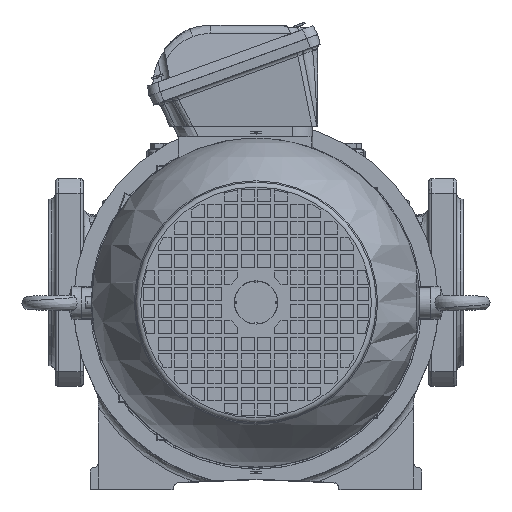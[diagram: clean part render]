
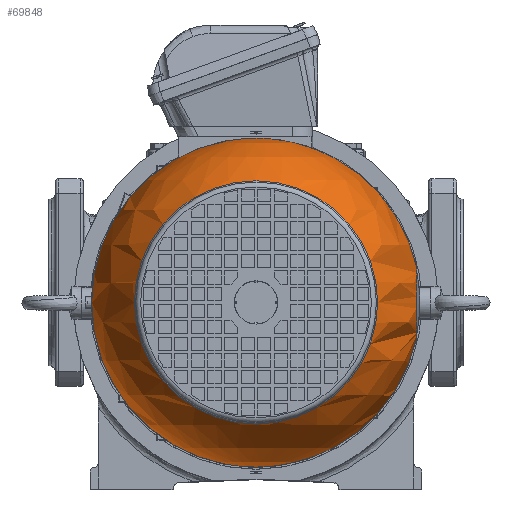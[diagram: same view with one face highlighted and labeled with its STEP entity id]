
A CAD part, top view. The second image highlights one B-rep face of the part: STEP entity #69848.
In plain terms, the highlighted spherical face has radius 99.054 mm.
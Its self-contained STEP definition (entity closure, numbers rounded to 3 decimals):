
#19=SPHERICAL_SURFACE('',#74411,99.054);
#7722=FACE_BOUND('',#15802,.T.);
#11652=FACE_OUTER_BOUND('',#15801,.T.);
#15801=EDGE_LOOP('',(#55772,#55773,#55774,#55775));
#15802=EDGE_LOOP('',(#55776,#55777));
#29168=CIRCLE('',#73081,99.05);
#29170=CIRCLE('',#73083,99.05);
#29171=CIRCLE('',#73084,99.05);
#29325=CIRCLE('',#73807,21.153);
#29346=CIRCLE('',#74409,73.309);
#29347=CIRCLE('',#74410,73.309);
#32161=VERTEX_POINT('',#110435);
#32162=VERTEX_POINT('',#110436);
#32165=VERTEX_POINT('',#110445);
#32166=VERTEX_POINT('',#110450);
#33979=VERTEX_POINT('',#117470);
#33980=VERTEX_POINT('',#117472);
#39003=EDGE_CURVE('',#32161,#32162,#29168,.T.);
#39007=EDGE_CURVE('',#32166,#32165,#29170,.T.);
#39008=EDGE_CURVE('',#32162,#32166,#29171,.T.);
#40657=EDGE_CURVE('',#32165,#32161,#29325,.T.);
#41816=EDGE_CURVE('',#33979,#33980,#29346,.T.);
#41817=EDGE_CURVE('',#33980,#33979,#29347,.T.);
#55772=ORIENTED_EDGE('',*,*,#39003,.T.);
#55773=ORIENTED_EDGE('',*,*,#39008,.T.);
#55774=ORIENTED_EDGE('',*,*,#39007,.T.);
#55775=ORIENTED_EDGE('',*,*,#40657,.T.);
#55776=ORIENTED_EDGE('',*,*,#41817,.F.);
#55777=ORIENTED_EDGE('',*,*,#41816,.F.);
#69848=ADVANCED_FACE('',(#11652,#7722),#19,.T.);
#73081=AXIS2_PLACEMENT_3D('',#110437,#80315,#80316);
#73083=AXIS2_PLACEMENT_3D('',#110451,#80319,#80320);
#73084=AXIS2_PLACEMENT_3D('',#110452,#80321,#80322);
#73807=AXIS2_PLACEMENT_3D('',#115105,#82865,#82866);
#74409=AXIS2_PLACEMENT_3D('',#117473,#85203,#85204);
#74410=AXIS2_PLACEMENT_3D('',#117474,#85205,#85206);
#74411=AXIS2_PLACEMENT_3D('',#117475,#85207,#85208);
#80315=DIRECTION('center_axis',(0.,0.,
1.));
#80316=DIRECTION('ref_axis',(0.,1.,0.));
#80319=DIRECTION('center_axis',(0.,0.,
1.));
#80320=DIRECTION('ref_axis',(0.,1.,0.));
#80321=DIRECTION('center_axis',(0.,0.,
1.));
#80322=DIRECTION('ref_axis',(0.,1.,0.));
#82865=DIRECTION('center_axis',(-1.,0.,0.));
#82866=DIRECTION('ref_axis',(0.,1.,0.));
#85203=DIRECTION('center_axis',(0.,0.,
1.));
#85204=DIRECTION('ref_axis',(0.,1.,0.));
#85205=DIRECTION('center_axis',(0.,0.,
1.));
#85206=DIRECTION('ref_axis',(0.,1.,0.));
#85207=DIRECTION('center_axis',(0.,-1.,0.));
#85208=DIRECTION('ref_axis',(-1.,0.,0.));
#110435=CARTESIAN_POINT('',(96.769,21.135,313.764));
#110436=CARTESIAN_POINT('',(0.,99.05,313.764));
#110437=CARTESIAN_POINT('Origin',(0.,0.,
313.764));
#110445=CARTESIAN_POINT('',(96.769,-21.135,313.764));
#110450=CARTESIAN_POINT('',(0.,-99.05,313.764));
#110451=CARTESIAN_POINT('Origin',(0.,0.,
313.764));
#110452=CARTESIAN_POINT('Origin',(0.,0.,
313.764));
#115105=CARTESIAN_POINT('Origin',(96.769,0.,
312.9));
#117470=CARTESIAN_POINT('',(0.,-73.309,379.515));
#117472=CARTESIAN_POINT('',(0.,73.309,379.515));
#117473=CARTESIAN_POINT('Origin',(0.,0.,
379.515));
#117474=CARTESIAN_POINT('Origin',(0.,0.,
379.515));
#117475=CARTESIAN_POINT('Origin',(0.,0.,
312.9));
